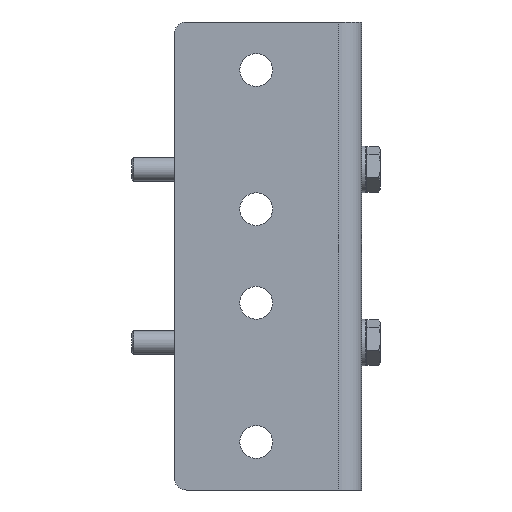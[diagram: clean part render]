
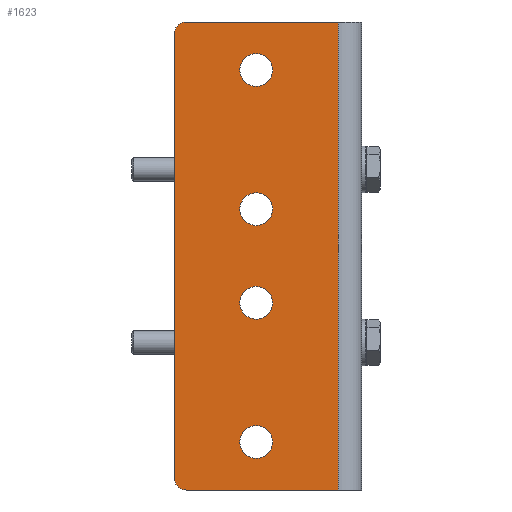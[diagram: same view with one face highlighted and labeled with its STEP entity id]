
A CAD part, front view. The second image highlights one B-rep face of the part: STEP entity #1623.
In plain terms, the highlighted planar face has unit normal (0, -1, 0).
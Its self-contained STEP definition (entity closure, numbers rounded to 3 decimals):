
#134=FACE_BOUND('',#334,.T.);
#135=FACE_BOUND('',#335,.T.);
#136=FACE_BOUND('',#336,.T.);
#137=FACE_BOUND('',#337,.T.);
#138=FACE_BOUND('',#338,.T.);
#192=PLANE('',#1734);
#334=EDGE_LOOP('',(#1159));
#335=EDGE_LOOP('',(#1160));
#336=EDGE_LOOP('',(#1161));
#337=EDGE_LOOP('',(#1162));
#338=EDGE_LOOP('',(#1163,#1164,#1165,#1166,#1167,#1168));
#482=LINE('',#2466,#592);
#485=LINE('',#2480,#595);
#486=LINE('',#2482,#596);
#487=LINE('',#2484,#597);
#592=VECTOR('',#1946,190.);
#595=VECTOR('',#1959,65.);
#596=VECTOR('',#1960,200.);
#597=VECTOR('',#1961,65.);
#700=CIRCLE('',#1731,5.);
#702=CIRCLE('',#1735,7.);
#703=CIRCLE('',#1736,7.);
#704=CIRCLE('',#1737,7.);
#705=CIRCLE('',#1738,7.);
#706=CIRCLE('',#1739,5.);
#783=VERTEX_POINT('',#2456);
#784=VERTEX_POINT('',#2457);
#787=VERTEX_POINT('',#2465);
#789=VERTEX_POINT('',#2471);
#790=VERTEX_POINT('',#2473);
#791=VERTEX_POINT('',#2475);
#792=VERTEX_POINT('',#2477);
#793=VERTEX_POINT('',#2479);
#794=VERTEX_POINT('',#2481);
#795=VERTEX_POINT('',#2483);
#934=EDGE_CURVE('',#783,#784,#700,.T.);
#938=EDGE_CURVE('',#784,#787,#482,.T.);
#941=EDGE_CURVE('',#789,#789,#702,.T.);
#942=EDGE_CURVE('',#790,#790,#703,.T.);
#943=EDGE_CURVE('',#791,#791,#704,.T.);
#944=EDGE_CURVE('',#792,#792,#705,.T.);
#945=EDGE_CURVE('',#793,#783,#485,.T.);
#946=EDGE_CURVE('',#793,#794,#486,.T.);
#947=EDGE_CURVE('',#795,#794,#487,.T.);
#948=EDGE_CURVE('',#787,#795,#706,.T.);
#1159=ORIENTED_EDGE('',*,*,#941,.T.);
#1160=ORIENTED_EDGE('',*,*,#942,.T.);
#1161=ORIENTED_EDGE('',*,*,#943,.T.);
#1162=ORIENTED_EDGE('',*,*,#944,.T.);
#1163=ORIENTED_EDGE('',*,*,#934,.F.);
#1164=ORIENTED_EDGE('',*,*,#945,.F.);
#1165=ORIENTED_EDGE('',*,*,#946,.T.);
#1166=ORIENTED_EDGE('',*,*,#947,.F.);
#1167=ORIENTED_EDGE('',*,*,#948,.F.);
#1168=ORIENTED_EDGE('',*,*,#938,.F.);
#1623=ADVANCED_FACE('',(#134,#135,#136,#137,#138),#192,.T.);
#1731=AXIS2_PLACEMENT_3D('',#2458,#1938,#1939);
#1734=AXIS2_PLACEMENT_3D('',#2470,#1949,#1950);
#1735=AXIS2_PLACEMENT_3D('',#2472,#1951,#1952);
#1736=AXIS2_PLACEMENT_3D('',#2474,#1953,#1954);
#1737=AXIS2_PLACEMENT_3D('',#2476,#1955,#1956);
#1738=AXIS2_PLACEMENT_3D('',#2478,#1957,#1958);
#1739=AXIS2_PLACEMENT_3D('',#2485,#1962,#1963);
#1938=DIRECTION('center_axis',(0.,1.,0.));
#1939=DIRECTION('ref_axis',(-0.707,0.,-0.707));
#1946=DIRECTION('',(0.,0.,1.));
#1949=DIRECTION('center_axis',(0.,-1.,0.));
#1950=DIRECTION('ref_axis',(0.,0.,-1.));
#1951=DIRECTION('center_axis',(0.,1.,0.));
#1952=DIRECTION('ref_axis',(-1.,0.,0.));
#1953=DIRECTION('center_axis',(0.,1.,0.));
#1954=DIRECTION('ref_axis',(-1.,0.,0.));
#1955=DIRECTION('center_axis',(0.,1.,0.));
#1956=DIRECTION('ref_axis',(-1.,0.,0.));
#1957=DIRECTION('center_axis',(0.,1.,0.));
#1958=DIRECTION('ref_axis',(-1.,0.,0.));
#1959=DIRECTION('',(-1.,0.,0.));
#1960=DIRECTION('',(0.,0.,1.));
#1961=DIRECTION('',(1.,0.,0.));
#1962=DIRECTION('center_axis',(0.,1.,0.));
#1963=DIRECTION('ref_axis',(-0.707,0.,0.707));
#2456=CARTESIAN_POINT('',(-75.,0.,0.));
#2457=CARTESIAN_POINT('',(-80.,0.,5.));
#2458=CARTESIAN_POINT('Origin',(-75.,0.,5.));
#2465=CARTESIAN_POINT('',(-80.,0.,195.));
#2466=CARTESIAN_POINT('',(-80.,0.,0.));
#2470=CARTESIAN_POINT('Origin',(29.155,0.,
100.));
#2471=CARTESIAN_POINT('',(-38.,0.,179.5));
#2472=CARTESIAN_POINT('Origin',(-45.,0.,179.5));
#2473=CARTESIAN_POINT('',(-38.,0.,120.));
#2474=CARTESIAN_POINT('Origin',(-45.,0.,120.));
#2475=CARTESIAN_POINT('',(-38.,0.,80.));
#2476=CARTESIAN_POINT('Origin',(-45.,0.,80.));
#2477=CARTESIAN_POINT('',(-38.,0.,20.5));
#2478=CARTESIAN_POINT('Origin',(-45.,0.,20.5));
#2479=CARTESIAN_POINT('',(-10.,0.,0.));
#2480=CARTESIAN_POINT('',(-10.,0.,0.));
#2481=CARTESIAN_POINT('',(-10.,0.,200.));
#2482=CARTESIAN_POINT('',(-10.,0.,100.));
#2483=CARTESIAN_POINT('',(-75.,0.,200.));
#2484=CARTESIAN_POINT('',(138.31,0.,200.));
#2485=CARTESIAN_POINT('Origin',(-75.,0.,195.));
